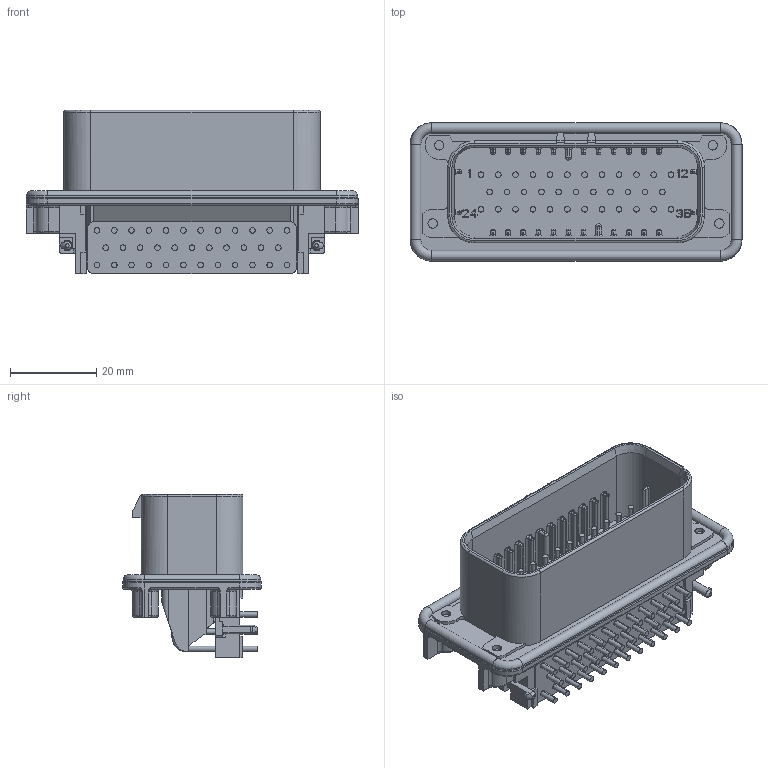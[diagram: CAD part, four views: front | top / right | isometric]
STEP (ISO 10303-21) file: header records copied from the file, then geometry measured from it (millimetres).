
FILE_DESCRIPTION((''),'2;1');
FILE_NAME('C-1-776339-1','2015-06-30T',('workeradm'),('Tyco Electronics Ltd.'),'PRO/ENGINEER BY PARAMETRIC TECHNOLOGY CORPORATION, 2014090','PRO/ENGINEER BY PARAMETRIC TECHNOLOGY CORPORATION, 2014090','');
FILE_SCHEMA(('AUTOMOTIVE_DESIGN { 1 0 10303 214 1 1 1 1 }'));
Length unit declared in the file: millimetre
Products named in the file (1): C-1-776339-1
Bounding box: 76.9 x 32.1 x 37.8 mm (x, y, z)
Volume: 21658.2 mm3; surface area: 18803.9 mm2
Topology: 1 solids, 1 shells, 1242 faces, 3159 edges, 2006 vertices
Faces by surface type: plane 533, cylinder 525, torus 111, sphere 44, bspline 21, cone 8
Entity records: 45748 total; most frequent: CARTESIAN_POINT 14926, DIRECTION 6557, ORIENTED_EDGE 6318, EDGE_CURVE 3159, AXIS2_PLACEMENT_3D 2373, VERTEX_POINT 2006, VECTOR 1811, LINE 1811
